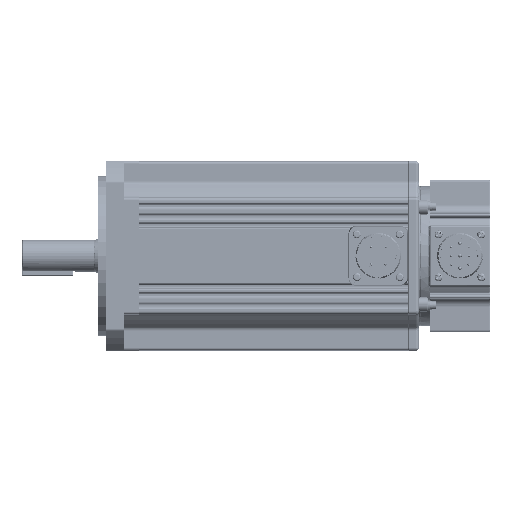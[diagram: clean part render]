
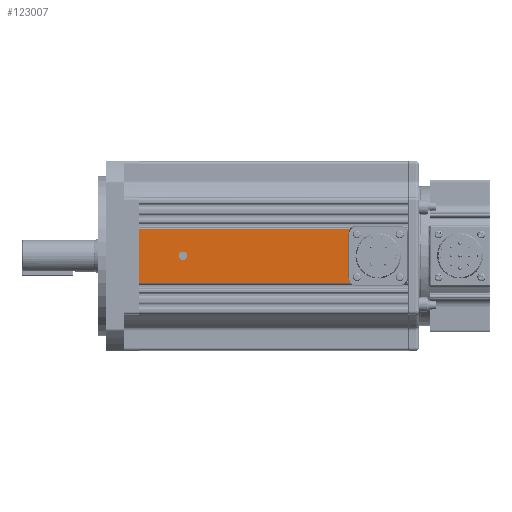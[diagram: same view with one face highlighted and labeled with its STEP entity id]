
A CAD part, top view. The second image highlights one B-rep face of the part: STEP entity #123007.
In plain terms, the highlighted planar face has unit normal (0, 0, -1).
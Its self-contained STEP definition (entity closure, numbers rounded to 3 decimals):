
#9500 = CARTESIAN_POINT ( 'NONE',  ( 165., -15., 65. ) ) ;
#9510 = CARTESIAN_POINT ( 'NONE',  ( 20.7, 18.5, 65. ) ) ;
#9756 = CARTESIAN_POINT ( 'NONE',  ( 166.429, -18.5, 65. ) ) ;
#10656 = CARTESIAN_POINT ( 'NONE',  ( 166.429, 18.5, 65. ) ) ;
#10730 = CARTESIAN_POINT ( 'NONE',  ( 20.7, -18.5, 65. ) ) ;
#10778 = CARTESIAN_POINT ( 'NONE',  ( 165., 15., 65. ) ) ;
#19748 = CARTESIAN_POINT ( 'NONE',  ( 47.7, 0., 65. ) ) ;
#19787 = CARTESIAN_POINT ( 'NONE',  ( 53.7, 0., 65. ) ) ;
#23834 = EDGE_CURVE ( 'NONE', #105799, #105911, #134862, .T. ) ;
#23880 = EDGE_CURVE ( 'NONE', #105418, #105911, #143127, .T. ) ;
#23893 = EDGE_CURVE ( 'NONE', #105874, #105594, #134975, .T. ) ;
#23942 = EDGE_CURVE ( 'NONE', #105805, #105418, #135061, .T. ) ;
#23944 = EDGE_CURVE ( 'NONE', #105594, #105805, #135081, .T. ) ;
#23947 = EDGE_CURVE ( 'NONE', #105799, #105874, #143315, .T. ) ;
#23967 = EDGE_CURVE ( 'NONE', #41148, #41149, #143270, .T. ) ;
#33765 = EDGE_LOOP ( 'NONE', ( #39115, #39231 ) ) ;
#33782 = EDGE_LOOP ( 'NONE', ( #39138, #39298, #39181, #39096, #39161, #39123 ) ) ;
#39096 = ORIENTED_EDGE ( 'NONE', *, *, #23893, .T. ) ;
#39115 = ORIENTED_EDGE ( 'NONE', *, *, #23967, .T. ) ;
#39123 = ORIENTED_EDGE ( 'NONE', *, *, #23942, .T. ) ;
#39138 = ORIENTED_EDGE ( 'NONE', *, *, #23880, .T. ) ;
#39161 = ORIENTED_EDGE ( 'NONE', *, *, #23944, .T. ) ;
#39181 = ORIENTED_EDGE ( 'NONE', *, *, #23947, .T. ) ;
#39231 = ORIENTED_EDGE ( 'NONE', *, *, #143098, .T. ) ;
#39298 = ORIENTED_EDGE ( 'NONE', *, *, #23834, .F. ) ;
#41148 = VERTEX_POINT ( 'NONE', #19748 ) ;
#41149 = VERTEX_POINT ( 'NONE', #19787 ) ;
#105418 = VERTEX_POINT ( 'NONE', #10656 ) ;
#105594 = VERTEX_POINT ( 'NONE', #10730 ) ;
#105799 = VERTEX_POINT ( 'NONE', #9500 ) ;
#105805 = VERTEX_POINT ( 'NONE', #9510 ) ;
#105874 = VERTEX_POINT ( 'NONE', #9756 ) ;
#105911 = VERTEX_POINT ( 'NONE', #10778 ) ;
#107308 = AXIS2_PLACEMENT_3D ( 'NONE', #114912, #114965, #114890 ) ;
#108436 = CIRCLE ( 'NONE', #108437, 3. ) ;
#108437 = AXIS2_PLACEMENT_3D ( 'NONE', #124674, #124687, #124665 ) ;
#114890 = DIRECTION ( 'NONE',  ( -1., 0., 0. ) ) ;
#114909 = FACE_BOUND ( 'NONE', #33765, .T. ) ;
#114912 = CARTESIAN_POINT ( 'NONE',  ( 206.2, 65., 65. ) ) ;
#114965 = DIRECTION ( 'NONE',  ( 0., 0., -1. ) ) ;
#114979 = FACE_OUTER_BOUND ( 'NONE', #33782, .T. ) ;
#115000 = PLANE ( 'NONE',  #107308 ) ;
#123007 = ADVANCED_FACE ( 'NONE', ( #114979, #114909 ), #115000, .T. ) ;
#124665 = DIRECTION ( 'NONE',  ( -1., 0., 0. ) ) ;
#124674 = CARTESIAN_POINT ( 'NONE',  ( 50.7, 0., 65. ) ) ;
#124687 = DIRECTION ( 'NONE',  ( 0., 0., 1. ) ) ;
#134862 = LINE ( 'NONE', #134868, #143078 ) ;
#134868 = CARTESIAN_POINT ( 'NONE',  ( 165., 15., 65. ) ) ;
#134906 = DIRECTION ( 'NONE',  ( 0., 1., 0. ) ) ;
#134930 = DIRECTION ( 'NONE',  ( 0., -1., 0. ) ) ;
#134933 = DIRECTION ( 'NONE',  ( 0., 0., 1. ) ) ;
#134957 = CARTESIAN_POINT ( 'NONE',  ( 170., 15., 65. ) ) ;
#134975 = LINE ( 'NONE', #134984, #143183 ) ;
#134984 = CARTESIAN_POINT ( 'NONE',  ( 206.2, -18.5, 65. ) ) ;
#134993 = DIRECTION ( 'NONE',  ( -1., 0., 0. ) ) ;
#135061 = LINE ( 'NONE', #135068, #143234 ) ;
#135068 = CARTESIAN_POINT ( 'NONE',  ( 206.2, 18.5, 65. ) ) ;
#135077 = DIRECTION ( 'NONE',  ( 1., 0., 0. ) ) ;
#135081 = LINE ( 'NONE', #135120, #143242 ) ;
#135102 = CARTESIAN_POINT ( 'NONE',  ( 170., -15., 65. ) ) ;
#135113 = DIRECTION ( 'NONE',  ( -1., 0., 0. ) ) ;
#135117 = DIRECTION ( 'NONE',  ( 0., 1., 0. ) ) ;
#135118 = CARTESIAN_POINT ( 'NONE',  ( 50.7, 0., 65. ) ) ;
#135120 = CARTESIAN_POINT ( 'NONE',  ( 20.7, 65., 65. ) ) ;
#135136 = DIRECTION ( 'NONE',  ( 0., 0., 1. ) ) ;
#135139 = DIRECTION ( 'NONE',  ( 0., 0., 1. ) ) ;
#135140 = DIRECTION ( 'NONE',  ( 0., -1., 0. ) ) ;
#143078 = VECTOR ( 'NONE', #134906, 1000. ) ;
#143098 = EDGE_CURVE ( 'NONE', #41149, #41148, #108436, .T. ) ;
#143127 = CIRCLE ( 'NONE', #143131, 5. ) ;
#143131 = AXIS2_PLACEMENT_3D ( 'NONE', #134957, #134933, #134930 ) ;
#143183 = VECTOR ( 'NONE', #134993, 1000. ) ;
#143234 = VECTOR ( 'NONE', #135077, 1000. ) ;
#143242 = VECTOR ( 'NONE', #135117, 1000. ) ;
#143270 = CIRCLE ( 'NONE', #143290, 3. ) ;
#143275 = AXIS2_PLACEMENT_3D ( 'NONE', #135102, #135139, #135140 ) ;
#143290 = AXIS2_PLACEMENT_3D ( 'NONE', #135118, #135136, #135113 ) ;
#143315 = CIRCLE ( 'NONE', #143275, 5. ) ;
